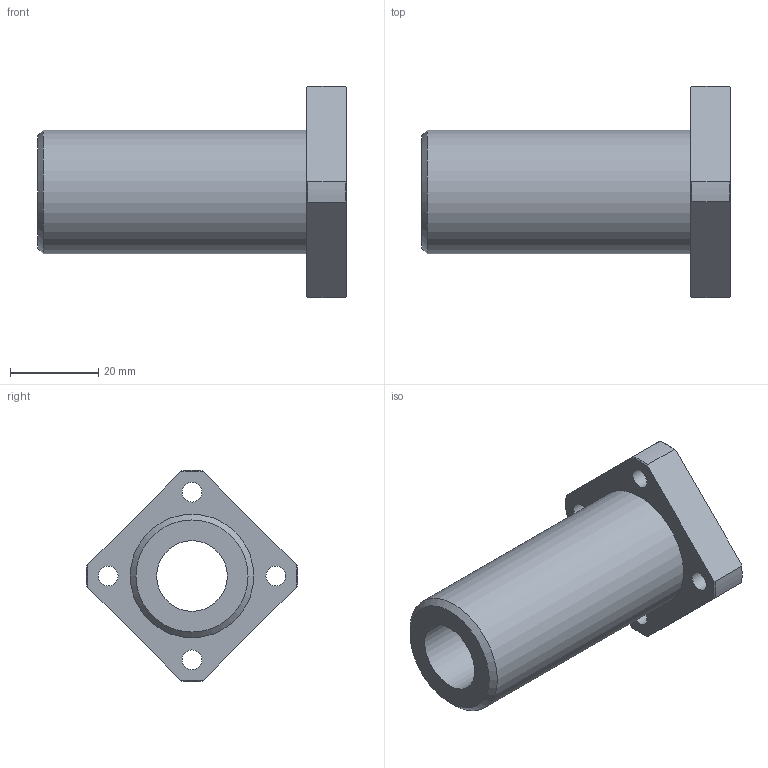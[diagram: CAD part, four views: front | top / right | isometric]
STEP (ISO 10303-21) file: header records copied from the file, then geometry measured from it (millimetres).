
FILE_DESCRIPTION(('STEP AP203'),'1');
FILE_NAME('//192.168.1.1/share/s-4 技術開発/s-4-4_CAD/s-4-4-3_見直し済み/PBC LINEAR修正済み/DFPJ/DFPJ_TOP/DFPJ/DFPJ16.step','2022-03-24T05:05:11',(' '),(' '),'Spatial InterOp 3D',' ',' ');
FILE_SCHEMA(('CONFIG_CONTROL_DESIGN'));
Length unit declared in the file: millimetre
Products named in the file (1): 1
Bounding box: 70 x 47.98 x 47.98 mm (x, y, z)
Volume: 34524.2 mm3; surface area: 12907.3 mm2
Topology: 1 solids, 1 shells, 34 faces, 84 edges, 57 vertices
Faces by surface type: cylinder 14, plane 11, cone 9
Full cylindrical faces by diameter (mm): 4.5 x4, 7.5 x4, 16 x1, 28 x1
Entity records: 1018 total; most frequent: CARTESIAN_POINT 205, DIRECTION 160, ORIENTED_EDGE 138, AXIS2_PLACEMENT_3D 72, EDGE_CURVE 69, EDGE_LOOP 60, VERTEX_POINT 53, FACE_OUTER_BOUND 44
